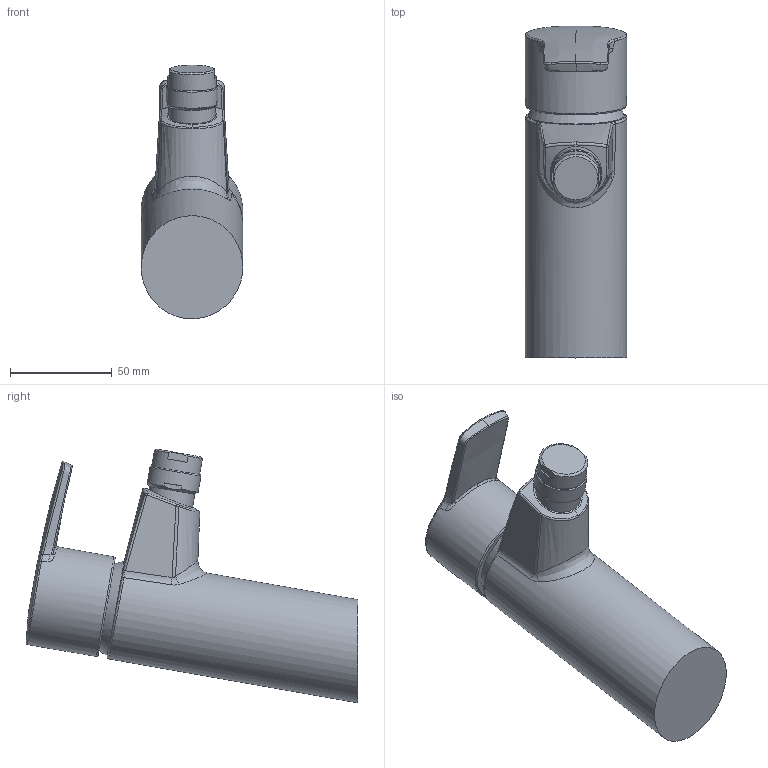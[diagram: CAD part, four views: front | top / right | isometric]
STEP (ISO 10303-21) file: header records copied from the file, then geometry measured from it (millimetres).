
FILE_DESCRIPTION (( 'STEP AP203' ), '1' );
FILE_NAME ('2818+2818F.STEP', '2017-03-09T05:49:05', ( '' ), ( '' ), 'SwSTEP 2.0', 'SolidWorks 2016', '' );
FILE_SCHEMA (( 'CONFIG_CONTROL_DESIGN' ));
Length unit declared in the file: millimetre
Products named in the file (1): 2818+2818F
Bounding box: 50 x 163.42 x 124.86 mm (x, y, z)
Volume: 371210.2 mm3; surface area: 38569.1 mm2
Topology: 1 solids, 1 shells, 90 faces, 243 edges, 158 vertices
Faces by surface type: bspline 67, plane 12, torus 4, cylinder 4, cone 2, sphere 1
Full cylindrical faces by diameter (mm): 22.7 x1, 24 x1, 25.5 x1, 50 x1
Entity records: 8365 total; most frequent: CARTESIAN_POINT 6702, ORIENTED_EDGE 454, EDGE_CURVE 227, B_SPLINE_CURVE_WITH_KNOTS 164, VERTEX_POINT 152, DIRECTION 128, EDGE_LOOP 103, FACE_OUTER_BOUND 97
